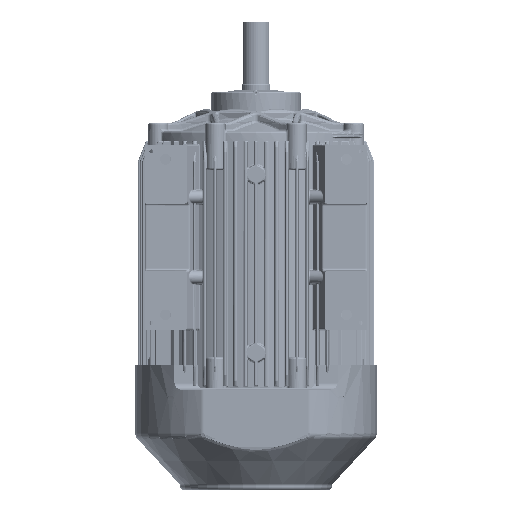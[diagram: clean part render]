
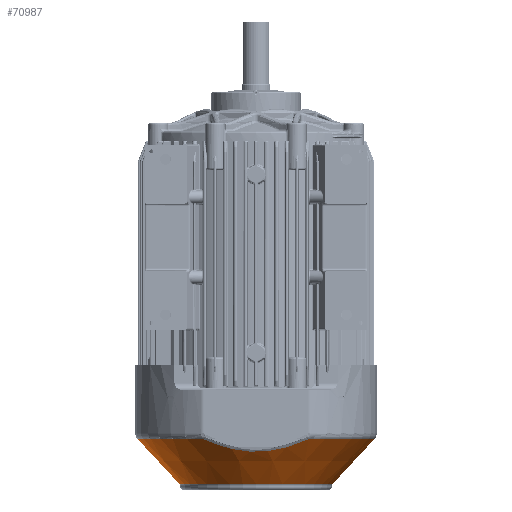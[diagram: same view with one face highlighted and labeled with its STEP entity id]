
A CAD part, front view. The second image highlights one B-rep face of the part: STEP entity #70987.
In plain terms, the highlighted conical face has half-angle 43 degrees and reference radius 172.149 mm.
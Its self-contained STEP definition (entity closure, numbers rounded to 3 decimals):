
#2816 = CARTESIAN_POINT ( 'NONE',  ( 18.282, -238.938, -701.537 ) ) ;
#10790 = CIRCLE ( 'NONE', #147545, 265.627 ) ;
#13589 = LINE ( 'NONE', #120379, #189529 ) ;
#17774 = CARTESIAN_POINT ( 'NONE',  ( 108.997, -237.977, -677.964 ) ) ;
#20360 = CARTESIAN_POINT ( 'NONE',  ( 16.994, -238.943, -701.634 ) ) ;
#22102 = CARTESIAN_POINT ( 'NONE',  ( -65.242, -238.582, -693.283 ) ) ;
#23796 = CARTESIAN_POINT ( 'NONE',  ( 265.627, 0., -673.662 ) ) ;
#29430 = CARTESIAN_POINT ( 'NONE',  ( -172.149, 0., -773.905 ) ) ;
#29754 = DIRECTION ( 'NONE',  ( 0., 0., 1. ) ) ;
#32016 = AXIS2_PLACEMENT_3D ( 'NONE', #114896, #94637, #258254 ) ;
#34424 = VERTEX_POINT ( 'NONE', #39656 ) ;
#37015 = CARTESIAN_POINT ( 'NONE',  ( 118.315, -237.822, -673.662 ) ) ;
#37897 = CARTESIAN_POINT ( 'NONE',  ( 70.81, -238.523, -691.89 ) ) ;
#39219 = VERTEX_POINT ( 'NONE', #50889 ) ;
#39656 = CARTESIAN_POINT ( 'NONE',  ( -265.627, 0., -673.662 ) ) ;
#42231 = VECTOR ( 'NONE', #222970, 1000. ) ;
#43146 = CARTESIAN_POINT ( 'NONE',  ( -9.889, -238.971, -702.262 ) ) ;
#43559 = EDGE_CURVE ( 'NONE', #137985, #39219, #96236, .T. ) ;
#46233 = ORIENTED_EDGE ( 'NONE', *, *, #243271, .T. ) ;
#50889 = CARTESIAN_POINT ( 'NONE',  ( -118.315, -237.822, -673.662 ) ) ;
#58099 = CARTESIAN_POINT ( 'NONE',  ( 41.198, -238.82, -698.851 ) ) ;
#58987 = CARTESIAN_POINT ( 'NONE',  ( 28.518, -238.894, -700.525 ) ) ;
#61594 = CARTESIAN_POINT ( 'NONE',  ( -118.315, -237.822, -673.662 ) ) ;
#62453 = CARTESIAN_POINT ( 'NONE',  ( -80.047, -238.401, -688.879 ) ) ;
#62564 = FACE_OUTER_BOUND ( 'NONE', #228492, .T. ) ;
#63307 = CARTESIAN_POINT ( 'NONE',  ( -72.67, -238.494, -691.161 ) ) ;
#70987 = ADVANCED_FACE ( 'NONE', ( #62564 ), #204104, .T. ) ;
#74763 = ORIENTED_EDGE ( 'NONE', *, *, #102208, .F. ) ;
#75628 = CARTESIAN_POINT ( 'NONE',  ( 0., 0., -673.662 ) ) ;
#78269 = DIRECTION ( 'NONE',  ( 0., 0., 1. ) ) ;
#79093 = CARTESIAN_POINT ( 'NONE',  ( 25.971, -238.907, -700.821 ) ) ;
#80734 = CARTESIAN_POINT ( 'NONE',  ( 118.315, -237.822, -673.662 ) ) ;
#80800 = DIRECTION ( 'NONE',  ( -0.682, 0., 0.731 ) ) ;
#84995 = ORIENTED_EDGE ( 'NONE', *, *, #152691, .F. ) ;
#92279 = LINE ( 'NONE', #146258, #42231 ) ;
#94637 = DIRECTION ( 'NONE',  ( 0., 0., 1. ) ) ;
#95867 = DIRECTION ( 'NONE',  ( 1., 0., 0. ) ) ;
#96236 = B_SPLINE_CURVE_WITH_KNOTS ( 'NONE', 3,
 ( #37015, #17774, #158242, #118668, #37897, #177652, #58099, #58987, #79093, #235821, #256841, #2816, #20360, #100240, #163477, #43146, #221712, #101090, #220832, #143304, #22102, #183811, #63307, #62453, #242750, #203991, #120434, #61594 ),
 .UNSPECIFIED., .F., .F.,
 ( 4, 2, 2, 2, 2, 2, 2, 2, 2, 2, 2, 2, 2, 4 ),
 ( 0., 0.03, 0.061, 0.091, 0.099, 0.103, 0.106, 0.122, 0.152, 0.182, 0.19, 0.198, 0.213, 0.243 ),
 .UNSPECIFIED. ) ;
#100240 = CARTESIAN_POINT ( 'NONE',  ( 10.567, -238.962, -702.065 ) ) ;
#101090 = CARTESIAN_POINT ( 'NONE',  ( -40.237, -238.827, -699.015 ) ) ;
#102208 = EDGE_CURVE ( 'NONE', #34424, #39219, #251577, .T. ) ;
#102374 = CARTESIAN_POINT ( 'NONE',  ( 0., 0., -673.662 ) ) ;
#110815 = VERTEX_POINT ( 'NONE', #29430 ) ;
#114896 = CARTESIAN_POINT ( 'NONE',  ( 0., 0., -773.905 ) ) ;
#118668 = CARTESIAN_POINT ( 'NONE',  ( 80.482, -238.399, -688.857 ) ) ;
#120379 = CARTESIAN_POINT ( 'NONE',  ( -172.149, 0., -773.905 ) ) ;
#120434 = CARTESIAN_POINT ( 'NONE',  ( -108.959, -237.977, -677.982 ) ) ;
#122569 = DIRECTION ( 'NONE',  ( 1., 0., 0. ) ) ;
#122830 = CARTESIAN_POINT ( 'NONE',  ( 172.149, 0., -773.905 ) ) ;
#131920 = AXIS2_PLACEMENT_3D ( 'NONE', #150110, #29754, #210856 ) ;
#137985 = VERTEX_POINT ( 'NONE', #80734 ) ;
#143304 = CARTESIAN_POINT ( 'NONE',  ( -62.75, -238.61, -693.947 ) ) ;
#146258 = CARTESIAN_POINT ( 'NONE',  ( 172.149, 0., -773.905 ) ) ;
#147545 = AXIS2_PLACEMENT_3D ( 'NONE', #102374, #243118, #122569 ) ;
#150110 = CARTESIAN_POINT ( 'NONE',  ( 0., 0., -773.905 ) ) ;
#152683 = EDGE_CURVE ( 'NONE', #220397, #155814, #92279, .T. ) ;
#152691 = EDGE_CURVE ( 'NONE', #137985, #155814, #10790, .T. ) ;
#155772 = EDGE_CURVE ( 'NONE', #110815, #34424, #13589, .T. ) ;
#155814 = VERTEX_POINT ( 'NONE', #23796 ) ;
#158242 = CARTESIAN_POINT ( 'NONE',  ( 99.575, -238.125, -681.894 ) ) ;
#159182 = AXIS2_PLACEMENT_3D ( 'NONE', #75628, #78269, #95867 ) ;
#161165 = ORIENTED_EDGE ( 'NONE', *, *, #155772, .F. ) ;
#163477 = CARTESIAN_POINT ( 'NONE',  ( 5.441, -238.97, -702.24 ) ) ;
#169355 = ORIENTED_EDGE ( 'NONE', *, *, #152683, .T. ) ;
#177652 = CARTESIAN_POINT ( 'NONE',  ( 51.168, -238.734, -696.887 ) ) ;
#183811 = CARTESIAN_POINT ( 'NONE',  ( -70.201, -238.524, -691.89 ) ) ;
#189529 = VECTOR ( 'NONE', #80800, 1000. ) ;
#203991 = CARTESIAN_POINT ( 'NONE',  ( -99.454, -238.127, -681.947 ) ) ;
#204104 = CONICAL_SURFACE ( 'NONE', #32016, 172.149, 0.75 ) ;
#210856 = DIRECTION ( 'NONE',  ( 1., 0., 0. ) ) ;
#220397 = VERTEX_POINT ( 'NONE', #122830 ) ;
#220832 = CARTESIAN_POINT ( 'NONE',  ( -50.273, -238.742, -697.084 ) ) ;
#221712 = CARTESIAN_POINT ( 'NONE',  ( -20.045, -238.941, -701.604 ) ) ;
#222970 = DIRECTION ( 'NONE',  ( 0.682, 0., 0.731 ) ) ;
#228492 = EDGE_LOOP ( 'NONE', ( #161165, #46233, #169355, #84995, #237480, #74763 ) ) ;
#235821 = CARTESIAN_POINT ( 'NONE',  ( 22.133, -238.924, -701.204 ) ) ;
#237480 = ORIENTED_EDGE ( 'NONE', *, *, #43559, .T. ) ;
#242750 = CARTESIAN_POINT ( 'NONE',  ( -84.926, -238.335, -687.232 ) ) ;
#243118 = DIRECTION ( 'NONE',  ( 0., 0., 1. ) ) ;
#243271 = EDGE_CURVE ( 'NONE', #110815, #220397, #258448, .T. ) ;
#251577 = CIRCLE ( 'NONE', #159182, 265.627 ) ;
#256841 = CARTESIAN_POINT ( 'NONE',  ( 20.852, -238.929, -701.322 ) ) ;
#258254 = DIRECTION ( 'NONE',  ( 1., 0., 0. ) ) ;
#258448 = CIRCLE ( 'NONE', #131920, 172.149 ) ;
